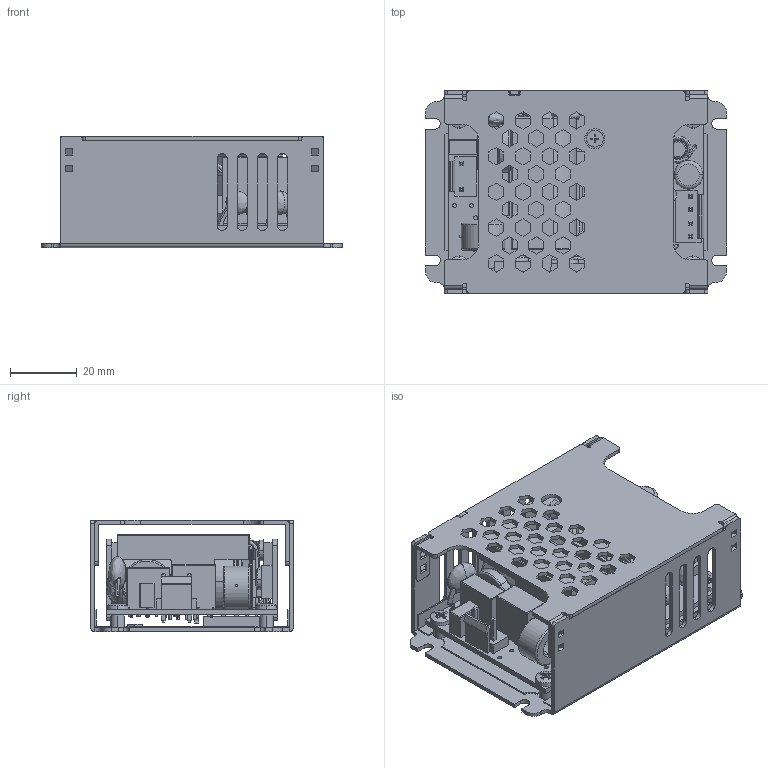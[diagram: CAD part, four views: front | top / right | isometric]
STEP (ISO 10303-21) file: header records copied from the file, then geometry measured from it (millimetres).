
FILE_DESCRIPTION (( 'STEP AP214' ), '1' );
FILE_NAME ('TED40-V00.STEP', '2017-03-16T06:55:51', ( 'user' ), ( '' ), 'SwSTEP 2.0', 'SolidWorks 2016', '' );
FILE_SCHEMA (( 'AUTOMOTIVE_DESIGN' ));
Length unit declared in the file: millimetre
Products named in the file (1): TED40-V00
Bounding box: 89.74 x 60.45 x 33.27 mm (x, y, z)
Volume: 58749.7 mm3; surface area: 82531.2 mm2
Topology: 53 solids, 53 shells, 2141 faces, 5469 edges, 3505 vertices
Faces by surface type: plane 1245, cylinder 617, torus 110, bspline 82, cone 60, sphere 27
Entity records: 99693 total; most frequent: CARTESIAN_POINT 22669, DIRECTION 10992, ORIENTED_EDGE 10836, EDGE_CURVE 5418, AXIS2_PLACEMENT_3D 3749, VERTEX_POINT 3505, LINE 3494, VECTOR 3494
